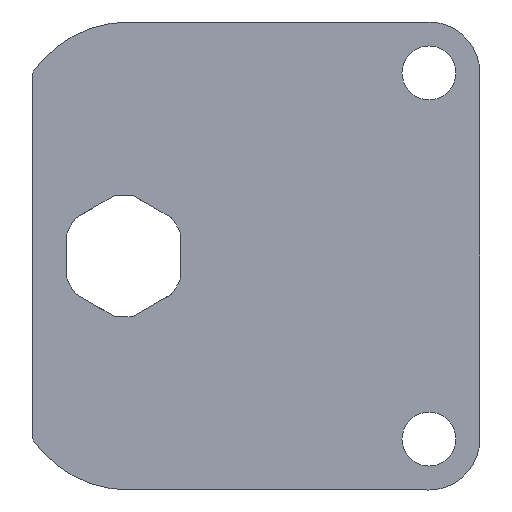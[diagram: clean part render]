
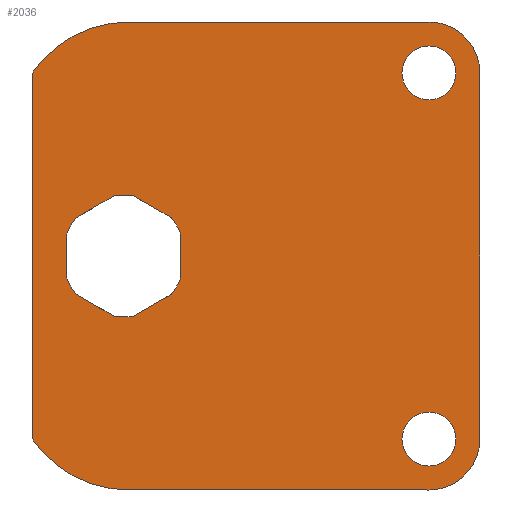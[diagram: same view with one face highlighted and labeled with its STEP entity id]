
A CAD part, left-side view. The second image highlights one B-rep face of the part: STEP entity #2036.
In plain terms, the highlighted planar face has unit normal (-1, 0, 0).
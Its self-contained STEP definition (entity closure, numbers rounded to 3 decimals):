
#87=LINE('',#3120,#287);
#92=LINE('',#3134,#292);
#96=LINE('',#3146,#296);
#100=LINE('',#3158,#300);
#104=LINE('',#3170,#304);
#108=LINE('',#3182,#308);
#113=LINE('',#3210,#313);
#117=LINE('',#3222,#317);
#121=LINE('',#3234,#321);
#125=LINE('',#3245,#325);
#287=VECTOR('',#2526,4.308);
#292=VECTOR('',#2539,4.308);
#296=VECTOR('',#2551,4.308);
#300=VECTOR('',#2563,4.308);
#304=VECTOR('',#2575,4.308);
#308=VECTOR('',#2587,4.308);
#313=VECTOR('',#2618,29.5);
#317=VECTOR('',#2630,36.);
#321=VECTOR('',#2642,29.5);
#325=VECTOR('',#2654,35.961);
#448=PLANE('',#2215);
#543=FACE_BOUND('',#755,.T.);
#544=FACE_BOUND('',#756,.T.);
#545=FACE_BOUND('',#757,.T.);
#546=FACE_BOUND('',#758,.T.);
#755=EDGE_LOOP('',(#1717,#1718,#1719,#1720,#1721,#1722,#1723,#1724,#1725,
#1726,#1727,#1728));
#756=EDGE_LOOP('',(#1729));
#757=EDGE_LOOP('',(#1730));
#758=EDGE_LOOP('',(#1731,#1732,#1733,#1734,#1735,#1736,#1737,#1738));
#855=CIRCLE('',#2170,6.);
#857=CIRCLE('',#2174,6.);
#859=CIRCLE('',#2178,6.);
#861=CIRCLE('',#2182,6.);
#863=CIRCLE('',#2186,6.);
#865=CIRCLE('',#2190,6.);
#868=CIRCLE('',#2194,2.65);
#870=CIRCLE('',#2197,2.65);
#871=CIRCLE('',#2199,11.5);
#873=CIRCLE('',#2203,5.);
#875=CIRCLE('',#2207,5.);
#877=CIRCLE('',#2211,11.5);
#981=VERTEX_POINT('',#3118);
#982=VERTEX_POINT('',#3119);
#985=VERTEX_POINT('',#3127);
#987=VERTEX_POINT('',#3133);
#989=VERTEX_POINT('',#3139);
#991=VERTEX_POINT('',#3145);
#993=VERTEX_POINT('',#3151);
#995=VERTEX_POINT('',#3157);
#997=VERTEX_POINT('',#3163);
#999=VERTEX_POINT('',#3169);
#1001=VERTEX_POINT('',#3175);
#1003=VERTEX_POINT('',#3181);
#1006=VERTEX_POINT('',#3192);
#1008=VERTEX_POINT('',#3197);
#1009=VERTEX_POINT('',#3200);
#1010=VERTEX_POINT('',#3201);
#1013=VERTEX_POINT('',#3209);
#1015=VERTEX_POINT('',#3215);
#1017=VERTEX_POINT('',#3221);
#1019=VERTEX_POINT('',#3227);
#1021=VERTEX_POINT('',#3233);
#1023=VERTEX_POINT('',#3239);
#1213=EDGE_CURVE('',#981,#982,#87,.T.);
#1217=EDGE_CURVE('',#985,#981,#855,.T.);
#1220=EDGE_CURVE('',#987,#985,#92,.T.);
#1223=EDGE_CURVE('',#989,#987,#857,.T.);
#1226=EDGE_CURVE('',#991,#989,#96,.T.);
#1229=EDGE_CURVE('',#993,#991,#859,.T.);
#1232=EDGE_CURVE('',#995,#993,#100,.T.);
#1235=EDGE_CURVE('',#997,#995,#861,.T.);
#1238=EDGE_CURVE('',#999,#997,#104,.T.);
#1241=EDGE_CURVE('',#1001,#999,#863,.T.);
#1244=EDGE_CURVE('',#1003,#1001,#108,.T.);
#1247=EDGE_CURVE('',#982,#1003,#865,.T.);
#1250=EDGE_CURVE('',#1006,#1006,#868,.T.);
#1252=EDGE_CURVE('',#1008,#1008,#870,.T.);
#1253=EDGE_CURVE('',#1009,#1010,#871,.T.);
#1257=EDGE_CURVE('',#1013,#1009,#113,.T.);
#1260=EDGE_CURVE('',#1015,#1013,#873,.T.);
#1263=EDGE_CURVE('',#1017,#1015,#117,.T.);
#1266=EDGE_CURVE('',#1019,#1017,#875,.T.);
#1269=EDGE_CURVE('',#1021,#1019,#121,.T.);
#1272=EDGE_CURVE('',#1023,#1021,#877,.T.);
#1275=EDGE_CURVE('',#1010,#1023,#125,.T.);
#1717=ORIENTED_EDGE('',*,*,#1213,.T.);
#1718=ORIENTED_EDGE('',*,*,#1247,.T.);
#1719=ORIENTED_EDGE('',*,*,#1244,.T.);
#1720=ORIENTED_EDGE('',*,*,#1241,.T.);
#1721=ORIENTED_EDGE('',*,*,#1238,.T.);
#1722=ORIENTED_EDGE('',*,*,#1235,.T.);
#1723=ORIENTED_EDGE('',*,*,#1232,.T.);
#1724=ORIENTED_EDGE('',*,*,#1229,.T.);
#1725=ORIENTED_EDGE('',*,*,#1226,.T.);
#1726=ORIENTED_EDGE('',*,*,#1223,.T.);
#1727=ORIENTED_EDGE('',*,*,#1220,.T.);
#1728=ORIENTED_EDGE('',*,*,#1217,.T.);
#1729=ORIENTED_EDGE('',*,*,#1250,.T.);
#1730=ORIENTED_EDGE('',*,*,#1252,.T.);
#1731=ORIENTED_EDGE('',*,*,#1275,.F.);
#1732=ORIENTED_EDGE('',*,*,#1253,.F.);
#1733=ORIENTED_EDGE('',*,*,#1257,.F.);
#1734=ORIENTED_EDGE('',*,*,#1260,.F.);
#1735=ORIENTED_EDGE('',*,*,#1263,.F.);
#1736=ORIENTED_EDGE('',*,*,#1266,.F.);
#1737=ORIENTED_EDGE('',*,*,#1269,.F.);
#1738=ORIENTED_EDGE('',*,*,#1272,.F.);
#2036=ADVANCED_FACE('',(#543,#544,#545,#546),#448,.F.);
#2170=AXIS2_PLACEMENT_3D('',#3128,#2532,#2533);
#2174=AXIS2_PLACEMENT_3D('',#3140,#2544,#2545);
#2178=AXIS2_PLACEMENT_3D('',#3152,#2556,#2557);
#2182=AXIS2_PLACEMENT_3D('',#3164,#2568,#2569);
#2186=AXIS2_PLACEMENT_3D('',#3176,#2580,#2581);
#2190=AXIS2_PLACEMENT_3D('',#3187,#2592,#2593);
#2194=AXIS2_PLACEMENT_3D('',#3193,#2600,#2601);
#2197=AXIS2_PLACEMENT_3D('',#3198,#2606,#2607);
#2199=AXIS2_PLACEMENT_3D('',#3202,#2610,#2611);
#2203=AXIS2_PLACEMENT_3D('',#3216,#2623,#2624);
#2207=AXIS2_PLACEMENT_3D('',#3228,#2635,#2636);
#2211=AXIS2_PLACEMENT_3D('',#3240,#2647,#2648);
#2215=AXIS2_PLACEMENT_3D('',#3248,#2658,#2659);
#2526=DIRECTION('',(0.,0.866,0.5));
#2532=DIRECTION('center_axis',(1.,0.,0.));
#2533=DIRECTION('ref_axis',(0.,-0.156,-0.988));
#2539=DIRECTION('',(0.,0.866,-0.5));
#2544=DIRECTION('center_axis',(1.,0.,0.));
#2545=DIRECTION('ref_axis',(0.,-0.933,-0.359));
#2551=DIRECTION('',(0.,0.,-1.));
#2556=DIRECTION('center_axis',(1.,0.,0.));
#2557=DIRECTION('ref_axis',(0.,-0.778,0.629));
#2563=DIRECTION('',(0.,-0.866,-0.5));
#2568=DIRECTION('center_axis',(1.,0.,0.));
#2569=DIRECTION('ref_axis',(0.,0.156,0.988));
#2575=DIRECTION('',(0.,-0.866,0.5));
#2580=DIRECTION('center_axis',(1.,0.,0.));
#2581=DIRECTION('ref_axis',(0.,0.933,0.359));
#2587=DIRECTION('',(0.,0.,1.));
#2592=DIRECTION('center_axis',(1.,0.,0.));
#2593=DIRECTION('ref_axis',(0.,0.778,-0.629));
#2600=DIRECTION('center_axis',(1.,0.,0.));
#2601=DIRECTION('ref_axis',(0.,-1.,0.));
#2606=DIRECTION('center_axis',(1.,0.,0.));
#2607=DIRECTION('ref_axis',(0.,-1.,0.));
#2610=DIRECTION('center_axis',(1.,0.,0.));
#2611=DIRECTION('ref_axis',(0.,0.,-1.));
#2618=DIRECTION('',(0.,1.,0.));
#2623=DIRECTION('center_axis',(1.,0.,0.));
#2624=DIRECTION('ref_axis',(0.,-1.,0.));
#2630=DIRECTION('',(0.,0.,-1.));
#2635=DIRECTION('center_axis',(1.,0.,0.));
#2636=DIRECTION('ref_axis',(0.,0.,1.));
#2642=DIRECTION('',(0.,-1.,0.));
#2647=DIRECTION('center_axis',(1.,0.,0.));
#2648=DIRECTION('ref_axis',(0.,0.826,0.564));
#2654=DIRECTION('',(0.,0.,1.));
#2658=DIRECTION('center_axis',(1.,0.,0.));
#2659=DIRECTION('ref_axis',(0.,0.,-1.));
#3118=CARTESIAN_POINT('',(0.,-8.065,-5.994));
#3119=CARTESIAN_POINT('',(0.,-4.335,-3.84));
#3120=CARTESIAN_POINT('',(0.,-12.184,-8.373));
#3127=CARTESIAN_POINT('',(0.,-9.935,-5.994));
#3128=CARTESIAN_POINT('Origin',(0.,-9.,-0.068));
#3133=CARTESIAN_POINT('',(0.,-13.665,-3.84));
#3134=CARTESIAN_POINT('',(0.,-17.784,-1.462));
#3139=CARTESIAN_POINT('',(0.,-14.6,-2.222));
#3140=CARTESIAN_POINT('Origin',(0.,-9.,-0.068));
#3145=CARTESIAN_POINT('',(0.,-14.6,2.086));
#3146=CARTESIAN_POINT('',(0.,-14.6,1.009));
#3151=CARTESIAN_POINT('',(0.,-13.665,3.705));
#3152=CARTESIAN_POINT('Origin',(0.,-9.,-0.068));
#3157=CARTESIAN_POINT('',(0.,-9.935,5.859));
#3158=CARTESIAN_POINT('',(0.,-15.919,2.404));
#3163=CARTESIAN_POINT('',(0.,-8.065,5.859));
#3164=CARTESIAN_POINT('Origin',(0.,-9.,-0.068));
#3169=CARTESIAN_POINT('',(0.,-4.335,3.705));
#3170=CARTESIAN_POINT('',(0.,-10.319,7.16));
#3175=CARTESIAN_POINT('',(0.,-3.4,2.086));
#3176=CARTESIAN_POINT('Origin',(0.,-9.,-0.068));
#3181=CARTESIAN_POINT('',(0.,-3.4,-2.222));
#3182=CARTESIAN_POINT('',(0.,-3.4,-1.145));
#3187=CARTESIAN_POINT('Origin',(0.,-9.,-0.068));
#3192=CARTESIAN_POINT('',(0.,-36.35,-18.068));
#3193=CARTESIAN_POINT('Origin',(0.,-39.,-18.068));
#3197=CARTESIAN_POINT('',(0.,-36.35,17.932));
#3198=CARTESIAN_POINT('Origin',(0.,-39.,17.932));
#3200=CARTESIAN_POINT('',(0.,-9.5,-23.068));
#3201=CARTESIAN_POINT('',(0.,0.,-18.048));
#3202=CARTESIAN_POINT('Origin',(0.,-9.5,-11.568));
#3209=CARTESIAN_POINT('',(0.,-39.,-23.068));
#3210=CARTESIAN_POINT('',(0.,-39.,-23.068));
#3215=CARTESIAN_POINT('',(0.,-44.,-18.068));
#3216=CARTESIAN_POINT('Origin',(0.,-39.,-18.068));
#3221=CARTESIAN_POINT('',(0.,-44.,17.932));
#3222=CARTESIAN_POINT('',(0.,-44.,17.932));
#3227=CARTESIAN_POINT('',(0.,-39.,22.932));
#3228=CARTESIAN_POINT('Origin',(0.,-39.,17.932));
#3233=CARTESIAN_POINT('',(0.,-9.5,22.932));
#3234=CARTESIAN_POINT('',(0.,-9.5,22.932));
#3239=CARTESIAN_POINT('',(0.,0.,17.913));
#3240=CARTESIAN_POINT('Origin',(0.,-9.5,11.432));
#3245=CARTESIAN_POINT('',(0.,0.,-18.048));
#3248=CARTESIAN_POINT('Origin',(0.,-22.471,-0.068));
